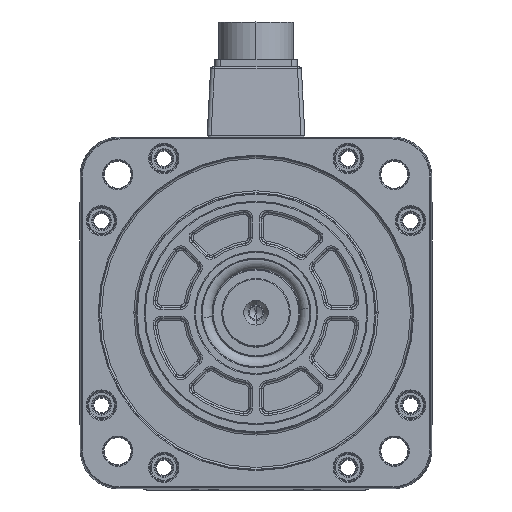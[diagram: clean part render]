
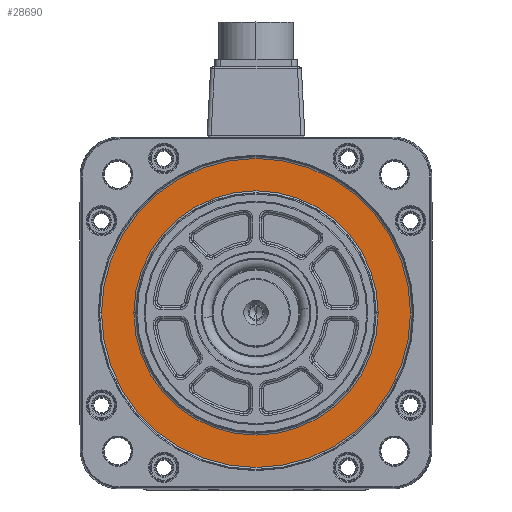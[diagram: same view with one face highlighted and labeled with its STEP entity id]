
A CAD part, top view. The second image highlights one B-rep face of the part: STEP entity #28690.
In plain terms, the highlighted planar face has unit normal (0, 0, 1).
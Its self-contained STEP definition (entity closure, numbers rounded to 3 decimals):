
#1701 = CARTESIAN_POINT ( 'NONE',  ( 79.034, 0., 15. ) ) ;
#2735 = DIRECTION ( 'NONE',  ( 0., 0., 1. ) ) ;
#3181 = ORIENTED_EDGE ( 'NONE', *, *, #106306, .T. ) ;
#5385 = DIRECTION ( 'NONE',  ( 0., 0., 1. ) ) ;
#11130 = CARTESIAN_POINT ( 'NONE',  ( 0., 0., 15. ) ) ;
#15815 = DIRECTION ( 'NONE',  ( 1., 0., 0. ) ) ;
#22231 = EDGE_LOOP ( 'NONE', ( #34868, #87248 ) ) ;
#23231 = DIRECTION ( 'NONE',  ( 1., 0., 0. ) ) ;
#27577 = AXIS2_PLACEMENT_3D ( 'NONE', #53568, #107815, #119615 ) ;
#28690 = ADVANCED_FACE ( 'NONE', ( #99275, #68654 ), #79750, .T. ) ;
#28961 = CARTESIAN_POINT ( 'NONE',  ( 62.466, 0., 15. ) ) ;
#31712 = DIRECTION ( 'NONE',  ( 1., 0., 0. ) ) ;
#34868 = ORIENTED_EDGE ( 'NONE', *, *, #37786, .T. ) ;
#35994 = AXIS2_PLACEMENT_3D ( 'NONE', #11130, #2735, #119566 ) ;
#37786 = EDGE_CURVE ( 'NONE', #134000, #132405, #76537, .T. ) ;
#41518 = EDGE_LOOP ( 'NONE', ( #124660, #3181 ) ) ;
#51620 = EDGE_CURVE ( 'NONE', #132405, #134000, #123774, .T. ) ;
#53568 = CARTESIAN_POINT ( 'NONE',  ( 0., 0., 15. ) ) ;
#56084 = CARTESIAN_POINT ( 'NONE',  ( -62.466, 0., 15. ) ) ;
#57142 = AXIS2_PLACEMENT_3D ( 'NONE', #104026, #62304, #31712 ) ;
#62304 = DIRECTION ( 'NONE',  ( 0., 0., -1. ) ) ;
#68654 = FACE_BOUND ( 'NONE', #22231, .T. ) ;
#76067 = CARTESIAN_POINT ( 'NONE',  ( 0., 0., 15. ) ) ;
#76537 = CIRCLE ( 'NONE', #105458, 62.466 ) ;
#79066 = CARTESIAN_POINT ( 'NONE',  ( -79.034, 0., 15. ) ) ;
#79750 = PLANE ( 'NONE',  #124144 ) ;
#81571 = VERTEX_POINT ( 'NONE', #1701 ) ;
#87248 = ORIENTED_EDGE ( 'NONE', *, *, #51620, .T. ) ;
#99275 = FACE_OUTER_BOUND ( 'NONE', #41518, .T. ) ;
#104026 = CARTESIAN_POINT ( 'NONE',  ( 0., 0., 15. ) ) ;
#105458 = AXIS2_PLACEMENT_3D ( 'NONE', #76067, #118518, #23231 ) ;
#106306 = EDGE_CURVE ( 'NONE', #108046, #81571, #125281, .T. ) ;
#107078 = CIRCLE ( 'NONE', #35994, 79.034 ) ;
#107815 = DIRECTION ( 'NONE',  ( 0., 0., 1. ) ) ;
#108046 = VERTEX_POINT ( 'NONE', #79066 ) ;
#111098 = CARTESIAN_POINT ( 'NONE',  ( 0., 0., 15. ) ) ;
#116464 = EDGE_CURVE ( 'NONE', #81571, #108046, #107078, .T. ) ;
#118518 = DIRECTION ( 'NONE',  ( 0., 0., -1. ) ) ;
#119566 = DIRECTION ( 'NONE',  ( 1., 0., 0. ) ) ;
#119615 = DIRECTION ( 'NONE',  ( 1., 0., 0. ) ) ;
#123774 = CIRCLE ( 'NONE', #57142, 62.466 ) ;
#124144 = AXIS2_PLACEMENT_3D ( 'NONE', #111098, #5385, #15815 ) ;
#124660 = ORIENTED_EDGE ( 'NONE', *, *, #116464, .T. ) ;
#125281 = CIRCLE ( 'NONE', #27577, 79.034 ) ;
#132405 = VERTEX_POINT ( 'NONE', #56084 ) ;
#134000 = VERTEX_POINT ( 'NONE', #28961 ) ;
